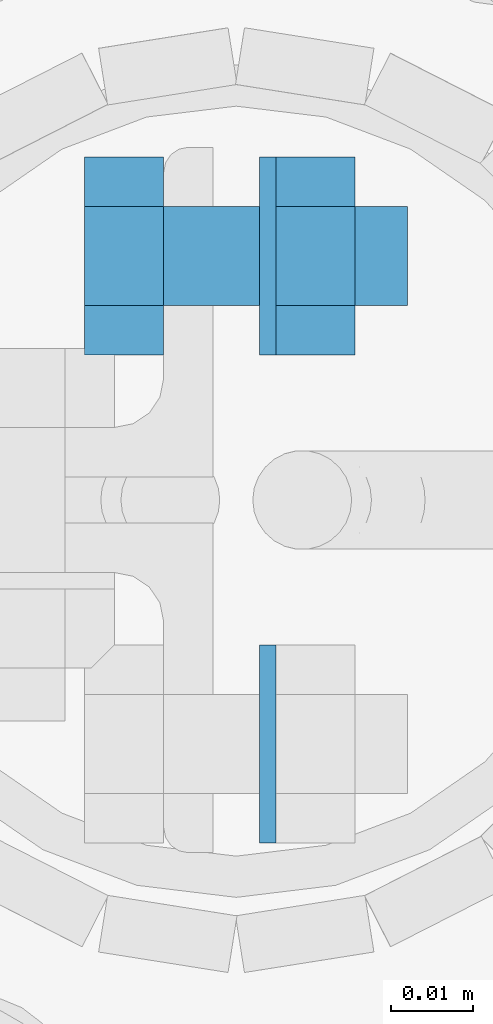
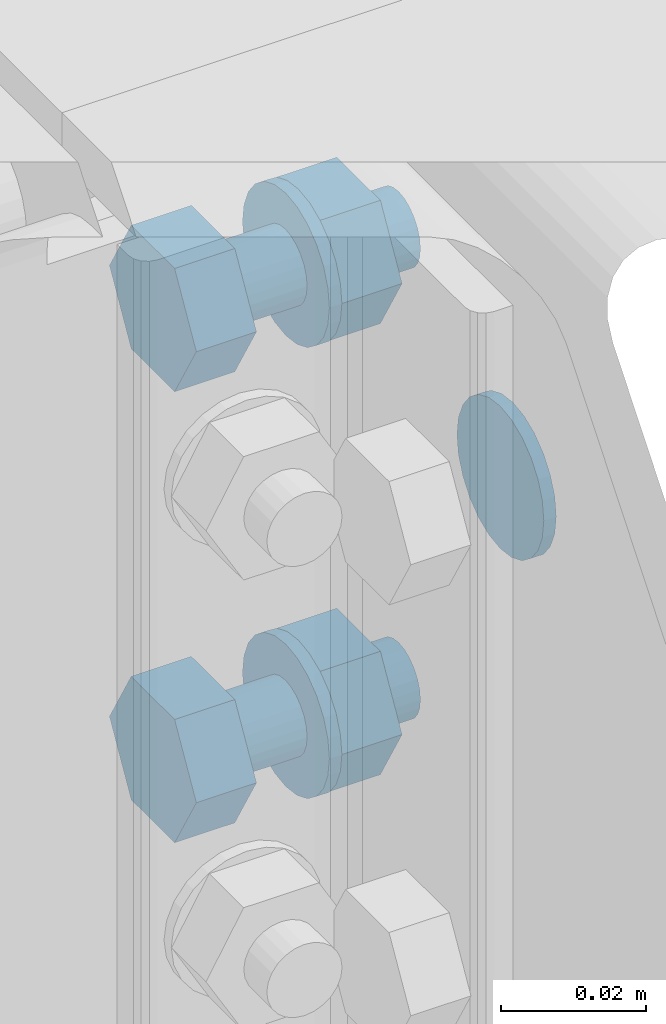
# One storey, part 66 of 84: 9 mechanical fasteners.
"""IFC4 building model written with IfcOpenShell, lengths in metres."""

from ifc_helpers import new_model, si_unit, frame, origin_with_axes, place, context, project, spatial, polyline, outline, extrude, type_object, element, save


model = new_model("IFC4")

# Units and contexts
model_context = context("Model", 3, precision=1e-05, world=origin_with_axes())
ifc_project = project(units=[si_unit("LENGTHUNIT", "METRE"), si_unit("AREAUNIT", "SQUARE_METRE"), si_unit("VOLUMEUNIT", "CUBIC_METRE"), si_unit("MASSUNIT", "GRAM", prefix="KILO"), si_unit("TIMEUNIT", "SECOND"), si_unit("PLANEANGLEUNIT", "RADIAN"), si_unit("SOLIDANGLEUNIT", "STERADIAN"), si_unit("THERMODYNAMICTEMPERATUREUNIT", "DEGREE_CELSIUS")], contexts=[model_context])

# Site, building, storey
placement_1 = place(None, origin_with_axes())
site = spatial("IfcSite", under=ifc_project, at=placement_1, Name="Italia", CompositionType="ELEMENT")
building = spatial("IfcBuilding", under=site, at=placement_1, Name="Tettoia", CompositionType="ELEMENT")
storey_placement = place(None, frame((0.0, 0.0, 4.199999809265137), z_axis=(0.0, 0.0, 1.0), x_axis=(1.0, 0.0, 0.0)))
storey = spatial("IfcBuildingStorey", under=building, at=storey_placement, Name="Storey 1", CompositionType="ELEMENT", Elevation=4.199999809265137)

# Mechanical fasteners
mechanical_fastener_type_1 = type_object("IfcMechanicalFastenerType", Name="Collegamento 0110_0109", PredefinedType="BOLT")
placement_2 = place(placement_1, origin_with_axes())
mechanical_fastener_1_placement = place(placement_2, origin_with_axes())
element("IfcMechanicalFastener", 1, at=mechanical_fastener_1_placement, inside=storey, type_object=mechanical_fastener_type_1, Name="Collegamento 0110_0109", NominalDiameter=0.024, context=model_context, shape_type="SweptSolid", body=[
    extrude(outline(polyline([(0.0, 0.0), (-0.000409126, -0.00310564), (-0.00160789, -0.00600004), (-0.00351524, -0.00848532), (-0.00600052, -0.0103922), (-0.00889397, -0.011591), (-0.0120001, -0.0120001), (-0.0151062, -0.011591), (-0.0179996, -0.0103922), (-0.0204849, -0.00848532), (-0.0223923, -0.00600004), (-0.023591, -0.00310564), (-0.0240002, 0.0), (-0.023591, 0.00310564), (-0.0223923, 0.00600004), (-0.0204849, 0.00848532), (-0.0179996, 0.0103922), (-0.0151062, 0.011591), (-0.0120001, 0.0120001), (-0.00889397, 0.011591), (-0.00600052, 0.0103922), (-0.00351524, 0.00848532), (-0.00160789, 0.00600004), (-0.000409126, 0.00310564), (0.0, 0.0)])), frame((11.2948, 9.9284, 4.338), z_axis=(-1.0, 0.0, 0.0), x_axis=(0.0, -1.0, 0.0)), (0.0, 0.0, 1.0), 0.00199986),
])
mechanical_fastener_type_2 = type_object("IfcMechanicalFastenerType", Name="Collegamento 0110_0109", PredefinedType="BOLT")
mechanical_fastener_2_placement = place(placement_2, origin_with_axes())
element("IfcMechanicalFastener", 2, at=mechanical_fastener_2_placement, inside=storey, type_object=mechanical_fastener_type_2, Name="Collegamento 0110_0109", NominalDiameter=0.0119997, context=model_context, shape_type="SweptSolid", body=[
    extrude(outline(polyline([(0.0, 0.0), (-0.0120001, 0.0), (-0.0179996, 0.0103922), (-0.0120001, 0.0207844), (0.0, 0.0207844), (0.00600052, 0.0103922), (0.0, 0.0)])), frame((11.2716, 10.0056, 4.25161), z_axis=(1.0, 0.0, 0.0), x_axis=(0.0, 1.0, 0.0)), (0.0, 0.0, 1.0), 0.00960064),
])
mechanical_fastener_type_3 = type_object("IfcMechanicalFastenerType", Name="Collegamento 0110_0109", PredefinedType="BOLT")
mechanical_fastener_3_placement = place(placement_2, origin_with_axes())
element("IfcMechanicalFastener", 3, at=mechanical_fastener_3_placement, inside=storey, type_object=mechanical_fastener_type_3, Name="Collegamento 0110_0109", NominalDiameter=0.012, context=model_context, shape_type="SweptSolid", body=[
    extrude(outline(polyline([(0.0, 0.0), (-0.000204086, -0.00155306), (-0.000802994, -0.00299978), (-0.00175667, -0.00424242), (-0.00299931, -0.00519609), (-0.00444698, -0.00579548), (-0.00599957, -0.00600004), (-0.00755215, -0.00579548), (-0.00899982, -0.00519609), (-0.0102425, -0.00424242), (-0.0111961, -0.00299978), (-0.011795, -0.00155306), (-0.0119991, 0.0), (-0.011795, 0.00155306), (-0.0111961, 0.00299978), (-0.0102425, 0.00424242), (-0.00899982, 0.00519609), (-0.00755215, 0.00579548), (-0.00599957, 0.00600004), (-0.00444698, 0.00579548), (-0.00299931, 0.00519609), (-0.00175667, 0.00424242), (-0.000802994, 0.00299978), (-0.000204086, 0.00155306), (0.0, 0.0)])), frame((11.2812, 10.0056, 4.262), z_axis=(1.0, 0.0, 0.0), x_axis=(0.0, 1.0, 0.0)), (0.0, 0.0, 1.0), 0.0295992),
])
mechanical_fastener_type_4 = type_object("IfcMechanicalFastenerType", Name="Collegamento 0110_0109", PredefinedType="BOLT")
mechanical_fastener_4_placement = place(placement_2, origin_with_axes())
element("IfcMechanicalFastener", 4, at=mechanical_fastener_4_placement, inside=storey, type_object=mechanical_fastener_type_4, Name="Collegamento 0110_0109", NominalDiameter=0.0119997, context=model_context, shape_type="SweptSolid", body=[
    extrude(outline(polyline([(0.0, 0.0), (-0.0120001, 0.0), (-0.0179996, 0.0103922), (-0.0120001, 0.0207844), (0.0, 0.0207844), (0.00600052, 0.0103922), (0.0, 0.0)])), frame((11.2948, 10.0056, 4.25161), z_axis=(1.0, 0.0, 0.0), x_axis=(0.0, 1.0, 0.0)), (0.0, 0.0, 1.0), 0.00960064),
])
mechanical_fastener_type_5 = type_object("IfcMechanicalFastenerType", Name="Collegamento 0110_0109", PredefinedType="BOLT")
mechanical_fastener_5_placement = place(placement_2, origin_with_axes())
element("IfcMechanicalFastener", 5, at=mechanical_fastener_5_placement, inside=storey, type_object=mechanical_fastener_type_5, Name="Collegamento 0110_0109", NominalDiameter=0.024, context=model_context, shape_type="SweptSolid", body=[
    extrude(outline(polyline([(0.0, 0.0), (-0.000409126, -0.00310564), (-0.00160789, -0.00600004), (-0.00351524, -0.00848532), (-0.00600052, -0.0103922), (-0.00889397, -0.011591), (-0.0120001, -0.0120001), (-0.0151062, -0.011591), (-0.0179996, -0.0103922), (-0.0204849, -0.00848532), (-0.0223923, -0.00600004), (-0.023591, -0.00310564), (-0.0240002, 0.0), (-0.023591, 0.00310564), (-0.0223923, 0.00600004), (-0.0204849, 0.00848532), (-0.0179996, 0.0103922), (-0.0151062, 0.011591), (-0.0120001, 0.0120001), (-0.00889397, 0.011591), (-0.00600052, 0.0103922), (-0.00351524, 0.00848532), (-0.00160789, 0.00600004), (-0.000409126, 0.00310564), (0.0, 0.0)])), frame((11.2928, 10.0116, 4.262), z_axis=(1.0, 0.0, 0.0), x_axis=(0.0, 1.0, 0.0)), (0.0, 0.0, 1.0), 0.00199986),
])
mechanical_fastener_type_6 = type_object("IfcMechanicalFastenerType", Name="Collegamento 0110_0109", PredefinedType="BOLT")
mechanical_fastener_6_placement = place(placement_2, origin_with_axes())
element("IfcMechanicalFastener", 6, at=mechanical_fastener_6_placement, inside=storey, type_object=mechanical_fastener_type_6, Name="Collegamento 0110_0109", NominalDiameter=0.0119997, context=model_context, shape_type="SweptSolid", body=[
    extrude(outline(polyline([(0.0, 0.0), (-0.0120001, 0.0), (-0.0179996, 0.0103922), (-0.0120001, 0.0207844), (0.0, 0.0207844), (0.00600052, 0.0103922), (0.0, 0.0)])), frame((11.2716, 10.0056, 4.32761), z_axis=(1.0, 0.0, 0.0), x_axis=(0.0, 1.0, 0.0)), (0.0, 0.0, 1.0), 0.00960064),
])
mechanical_fastener_type_7 = type_object("IfcMechanicalFastenerType", Name="Collegamento 0110_0109", PredefinedType="BOLT")
mechanical_fastener_7_placement = place(placement_2, origin_with_axes())
element("IfcMechanicalFastener", 7, at=mechanical_fastener_7_placement, inside=storey, type_object=mechanical_fastener_type_7, Name="Collegamento 0110_0109", NominalDiameter=0.012, context=model_context, shape_type="SweptSolid", body=[
    extrude(outline(polyline([(0.0, 0.0), (-0.000204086, -0.00155306), (-0.000802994, -0.00299978), (-0.00175667, -0.00424242), (-0.00299931, -0.00519609), (-0.00444698, -0.00579548), (-0.00599957, -0.00600004), (-0.00755215, -0.00579548), (-0.00899982, -0.00519609), (-0.0102425, -0.00424242), (-0.0111961, -0.00299978), (-0.011795, -0.00155306), (-0.0119991, 0.0), (-0.011795, 0.00155306), (-0.0111961, 0.00299978), (-0.0102425, 0.00424242), (-0.00899982, 0.00519609), (-0.00755215, 0.00579548), (-0.00599957, 0.00600004), (-0.00444698, 0.00579548), (-0.00299931, 0.00519609), (-0.00175667, 0.00424242), (-0.000802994, 0.00299978), (-0.000204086, 0.00155306), (0.0, 0.0)])), frame((11.2812, 10.0056, 4.338), z_axis=(1.0, 0.0, 0.0), x_axis=(0.0, 1.0, 0.0)), (0.0, 0.0, 1.0), 0.0295992),
])
mechanical_fastener_type_8 = type_object("IfcMechanicalFastenerType", Name="Collegamento 0110_0109", PredefinedType="BOLT")
mechanical_fastener_8_placement = place(placement_2, origin_with_axes())
element("IfcMechanicalFastener", 8, at=mechanical_fastener_8_placement, inside=storey, type_object=mechanical_fastener_type_8, Name="Collegamento 0110_0109", NominalDiameter=0.0119997, context=model_context, shape_type="SweptSolid", body=[
    extrude(outline(polyline([(0.0, 0.0), (-0.0120001, 0.0), (-0.0179996, 0.0103922), (-0.0120001, 0.0207844), (0.0, 0.0207844), (0.00600052, 0.0103922), (0.0, 0.0)])), frame((11.2948, 10.0056, 4.32761), z_axis=(1.0, 0.0, 0.0), x_axis=(0.0, 1.0, 0.0)), (0.0, 0.0, 1.0), 0.00960064),
])
mechanical_fastener_type_9 = type_object("IfcMechanicalFastenerType", Name="Collegamento 0110_0109", PredefinedType="BOLT")
mechanical_fastener_9_placement = place(placement_2, origin_with_axes())
element("IfcMechanicalFastener", 9, at=mechanical_fastener_9_placement, inside=storey, type_object=mechanical_fastener_type_9, Name="Collegamento 0110_0109", NominalDiameter=0.024, context=model_context, shape_type="SweptSolid", body=[
    extrude(outline(polyline([(0.0, 0.0), (-0.000409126, -0.00310564), (-0.00160789, -0.00600004), (-0.00351524, -0.00848532), (-0.00600052, -0.0103922), (-0.00889397, -0.011591), (-0.0120001, -0.0120001), (-0.0151062, -0.011591), (-0.0179996, -0.0103922), (-0.0204849, -0.00848532), (-0.0223923, -0.00600004), (-0.023591, -0.00310564), (-0.0240002, 0.0), (-0.023591, 0.00310564), (-0.0223923, 0.00600004), (-0.0204849, 0.00848532), (-0.0179996, 0.0103922), (-0.0151062, 0.011591), (-0.0120001, 0.0120001), (-0.00889397, 0.011591), (-0.00600052, 0.0103922), (-0.00351524, 0.00848532), (-0.00160789, 0.00600004), (-0.000409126, 0.00310564), (0.0, 0.0)])), frame((11.2928, 10.0116, 4.338), z_axis=(1.0, 0.0, 0.0), x_axis=(0.0, 1.0, 0.0)), (0.0, 0.0, 1.0), 0.00199986),
])

save(model, "model.ifc")
